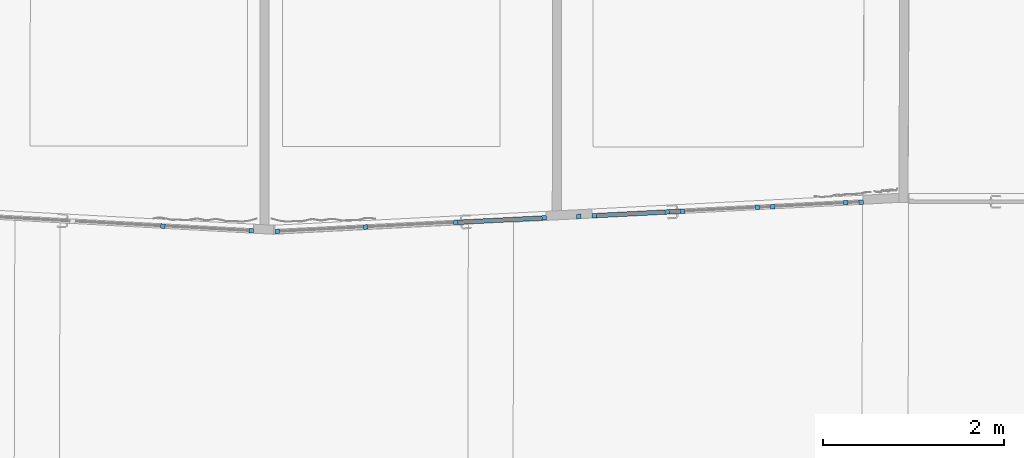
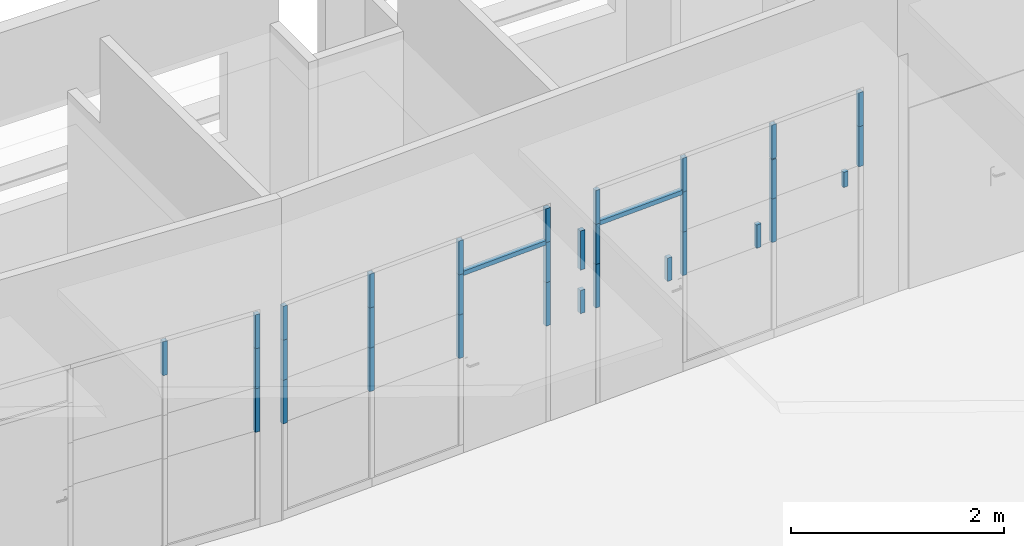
# One storey, part 5 of 43: 34 members, 3 elements without a shape of their own.
"""IFC2X3 building model written with IfcOpenShell, lengths in metres."""

from ifc_helpers import new_model, entity, si_unit, converted_unit, derived_unit, direction, frame, frame_2d, origin, origin_2d_with_axis, place, context, subcontext, project, spatial, rectangle, extrude, source, transform, mapped, material, type_object, type_shapes, element, aggregate, save


model = new_model("IFC2X3")

# Units and contexts
model_context = context("Model", 3, precision=1e-05, world=origin(), true_north=direction((6.123233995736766e-17, 1.0)))
body_context = subcontext(model_context, "Body", "Model", "MODEL_VIEW")
ifc_project = project(units=[si_unit("LENGTHUNIT", "METRE"), si_unit("AREAUNIT", "SQUARE_METRE"), converted_unit("PLANEANGLEUNIT", "DEGREE", entity("IfcPlaneAngleMeasure", 0.017453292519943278), si_unit("PLANEANGLEUNIT", "RADIAN"), dimensions=[0, 0, 0, 0, 0, 0, 0]), derived_unit("THERMALTRANSMITTANCEUNIT", [(si_unit("MASSUNIT", "GRAM", prefix="KILO"), 1), (si_unit("THERMODYNAMICTEMPERATUREUNIT", "KELVIN"), -1), (si_unit("TIMEUNIT", "SECOND"), -3)])], contexts=[model_context])

# Site, building, storey
site_placement = place(None, frame((1253.6752467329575, 2072.143113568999, 91.49999999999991), z_axis=(0.0, 0.0, 1.0), x_axis=(0.7237211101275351, 0.6900925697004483, 0.0)))
site = spatial("IfcSite", under=ifc_project, at=site_placement, Name="Surface", CompositionType="ELEMENT")
building_placement = place(site_placement, origin())
building = spatial("IfcBuilding", under=site, at=building_placement, CompositionType="ELEMENT")
storey_placement = place(building_placement, frame((0.0, 0.0, -4.629999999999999)))
storey = spatial("IfcBuildingStorey", under=building, at=storey_placement, Name="rez de rue -1.10m", CompositionType="ELEMENT", Elevation=-4.629999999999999)

# Curtain wall, member
curtain_wall_type = type_object("IfcCurtainWallType", Name="Mur-rideau:Menuiserie Int", PredefinedType="NOTDEFINED")
curtain_wall_1_placement = place(storey_placement, frame((0.0, 0.0, 4.629999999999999)))
curtain_wall_1 = element("IfcCurtainWall", 1, at=curtain_wall_1_placement, inside=storey, type_object=curtain_wall_type, Name="Mur-rideau:Menuiserie Int", ObjectType="Mur-rideau:Menuiserie Int")
ifc_material = material(Name="OMD_Bois Men Int")
member_type_1 = type_object("IfcMemberType", Name="Meneau rectangulaire:50x50 Int", PredefinedType="MULLION", material=ifc_material)
shared_shape_1 = source(origin(), body_context, "Body", "SweptSolid", [
    extrude(rectangle(XDim=0.05, YDim=0.05, at=origin_2d_with_axis()), frame((-0.025, 0.0, -0.3900000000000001), z_axis=(0.0, 0.0, 1.0), x_axis=(-1.0, 0.0, 0.0)), (0.0, 0.0, 1.0), 0.3900000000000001),
])
type_shapes(member_type_1, [shared_shape_1])
member_1_placement = place(curtain_wall_1_placement, frame((180.82798152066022, 7.671848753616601, -2.5699999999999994), z_axis=(0.0, 0.0, -1.0), x_axis=(0.6855443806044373, -0.7280308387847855, 0.0)))
member_1 = element("IfcMember", 2, at=member_1_placement, type_object=member_type_1, material=ifc_material, Name="Meneau rectangulaire:50x50 Int", ObjectType="Meneau rectangulaire:50x50 Int", context=body_context, shape_type="MappedRepresentation", body=[
    mapped(shared_shape_1, transform((0.0, 0.0, 0.0), scale=1.0)),
])

# Curtain wall, members
curtain_wall_2_placement = place(storey_placement, frame((0.0, 0.0, 4.629999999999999)))
curtain_wall_2 = element("IfcCurtainWall", 3, at=curtain_wall_2_placement, inside=storey, type_object=curtain_wall_type, Name="Mur-rideau:Menuiserie Int", ObjectType="Mur-rideau:Menuiserie Int")
member_type_2 = type_object("IfcMemberType", Name="Meneau rectangulaire:50x50 Int", PredefinedType="MULLION", material=ifc_material)
shared_shape_2 = source(origin(), body_context, "Body", "SweptSolid", [
    extrude(rectangle(XDim=0.05, YDim=0.05, at=frame_2d((0.0, -1.734723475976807e-18), x_axis=(1.0, 0.0))), frame((0.0, 0.0, -0.3900000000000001), z_axis=(0.0, 0.0, 1.0), x_axis=(-1.0, 0.0, 0.0)), (0.0, 0.0, 1.0), 0.3900000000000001),
])
type_shapes(member_type_2, [shared_shape_2])
member_2_placement = place(curtain_wall_2_placement, frame((182.51207345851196, 6.19625364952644, -2.5699999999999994), z_axis=(0.0, 0.0, -1.0), x_axis=(0.7578888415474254, -0.6523837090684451, 0.0)))
member_2 = element("IfcMember", 4, at=member_2_placement, type_object=member_type_2, material=ifc_material, Name="Meneau rectangulaire:50x50 Int", ObjectType="Meneau rectangulaire:50x50 Int", context=body_context, shape_type="MappedRepresentation", body=[
    mapped(shared_shape_2, transform((0.0, 0.0, 0.0), scale=1.0)),
])
member_type_3 = type_object("IfcMemberType", Name="Meneau rectangulaire:50x50 Int", PredefinedType="MULLION", material=ifc_material)
shared_shape_3 = source(origin(), body_context, "Body", "SweptSolid", [
    extrude(rectangle(XDim=0.05, YDim=0.05, at=frame_2d((0.0, -1.734723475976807e-18), x_axis=(1.0, 0.0))), frame((0.0, 0.0, -0.9250000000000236), z_axis=(0.0, 0.0, 1.0), x_axis=(-1.0, 0.0, 0.0)), (0.0, 0.0, 1.0), 0.9250000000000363),
])
type_shapes(member_type_3, [shared_shape_3])
member_3_placement = place(curtain_wall_2_placement, frame((183.23206785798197, 5.576489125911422, -2.5699999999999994), z_axis=(0.7578888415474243, -0.6523837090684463, 0.0), x_axis=(0.0, 0.0, 1.0)))
member_3 = element("IfcMember", 5, at=member_3_placement, type_object=member_type_3, material=ifc_material, Name="Meneau rectangulaire:50x50 Int", ObjectType="Meneau rectangulaire:50x50 Int", context=body_context, shape_type="MappedRepresentation", body=[
    mapped(shared_shape_3, transform((0.0, 0.0, 0.0), scale=1.0)),
])

# Member
member_type_4 = type_object("IfcMemberType", Name="Meneau rectangulaire:50x50 Int", PredefinedType="MULLION", material=ifc_material)
shared_shape_4 = source(origin(), body_context, "Body", "SweptSolid", [
    extrude(rectangle(XDim=0.05, YDim=0.049999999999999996, at=origin_2d_with_axis()), frame((-0.025, 0.0, -0.4599999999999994), z_axis=(0.0, 0.0, 1.0), x_axis=(-1.0, 0.0, 0.0)), (0.0, 0.0, 1.0), 0.4599999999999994),
])
type_shapes(member_type_4, [shared_shape_4])
member_4_placement = place(curtain_wall_1_placement, frame((180.82798152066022, 7.671848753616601, -3.029999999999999), z_axis=(0.0, 0.0, -1.0), x_axis=(0.6855443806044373, -0.7280308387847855, 0.0)))
member_4 = element("IfcMember", 6, at=member_4_placement, type_object=member_type_4, material=ifc_material, Name="Meneau rectangulaire:50x50 Int", ObjectType="Meneau rectangulaire:50x50 Int", context=body_context, shape_type="MappedRepresentation", body=[
    mapped(shared_shape_4, transform((0.0, 0.0, 0.0), scale=1.0)),
])

member_type_5 = type_object("IfcMemberType", Name="Meneau rectangulaire:50x50 Int", PredefinedType="MULLION", material=ifc_material)
shared_shape_5 = source(origin(), body_context, "Body", "SweptSolid", [
    extrude(rectangle(XDim=0.05, YDim=0.05, at=origin_2d_with_axis()), frame((-0.025, 0.0, -0.5), z_axis=(0.0, 0.0, 1.0), x_axis=(-1.0, 0.0, 0.0)), (0.0, 0.0, 1.0), 0.5),
])
type_shapes(member_type_5, [shared_shape_5])
member_5_placement = place(curtain_wall_2_placement, frame((180.99629577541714, 7.501021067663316, -3.0299999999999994), z_axis=(0.0, 0.0, 1.0), x_axis=(-0.7578888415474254, 0.6523837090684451, 0.0)))
member_5 = element("IfcMember", 7, at=member_5_placement, type_object=member_type_5, material=ifc_material, Name="Meneau rectangulaire:50x50 Int", ObjectType="Meneau rectangulaire:50x50 Int", context=body_context, shape_type="MappedRepresentation", body=[
    mapped(shared_shape_5, transform((0.0, 0.0, 0.0), scale=1.0)),
])

member_type_6 = type_object("IfcMemberType", Name="Meneau rectangulaire:50x50 Int", PredefinedType="MULLION", material=ifc_material)
shared_shape_6 = source(origin(), body_context, "Body", "SweptSolid", [
    extrude(rectangle(XDim=0.05, YDim=0.05, at=frame_2d((0.0, 1.734723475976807e-18), x_axis=(1.0, 0.0))), frame((0.0, 0.0, -0.4599999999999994), z_axis=(0.0, 0.0, 1.0), x_axis=(-1.0, 0.0, 0.0)), (0.0, 0.0, 1.0), 0.4599999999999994),
])
type_shapes(member_type_6, [shared_shape_6])
member_6_placement = place(curtain_wall_2_placement, frame((182.51207345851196, 6.19625364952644, -3.0299999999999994), z_axis=(0.0, 0.0, -1.0), x_axis=(0.7578888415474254, -0.6523837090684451, 0.0)))
member_6 = element("IfcMember", 8, at=member_6_placement, type_object=member_type_6, material=ifc_material, Name="Meneau rectangulaire:50x50 Int", ObjectType="Meneau rectangulaire:50x50 Int", context=body_context, shape_type="MappedRepresentation", body=[
    mapped(shared_shape_6, transform((0.0, 0.0, 0.0), scale=1.0)),
])

member_type_7 = type_object("IfcMemberType", Name="Meneau rectangulaire:50x50 Int", PredefinedType="MULLION", material=ifc_material)
shared_shape_7 = source(origin(), body_context, "Body", "SweptSolid", [
    extrude(rectangle(XDim=0.05, YDim=0.05000000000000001, at=origin_2d_with_axis()), frame((-0.025, 0.0, -0.5), z_axis=(0.0, 0.0, 1.0), x_axis=(-1.0, 0.0, 0.0)), (0.0, 0.0, 1.0), 0.5),
])
type_shapes(member_type_7, [shared_shape_7])
member_7_placement = place(curtain_wall_1_placement, frame((180.82798152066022, 7.671848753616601, -3.529999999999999), z_axis=(0.0, 0.0, -1.0), x_axis=(0.6855443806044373, -0.7280308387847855, 0.0)))
member_7 = element("IfcMember", 9, at=member_7_placement, type_object=member_type_7, material=ifc_material, Name="Meneau rectangulaire:50x50 Int", ObjectType="Meneau rectangulaire:50x50 Int", context=body_context, shape_type="MappedRepresentation", body=[
    mapped(shared_shape_7, transform((0.0, 0.0, 0.0), scale=1.0)),
])

member_8_placement = place(curtain_wall_2_placement, frame((183.2699623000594, 5.543869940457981, -3.5299999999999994), z_axis=(0.0, 0.0, -1.0), x_axis=(0.7578888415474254, -0.6523837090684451, 0.0)))
member_8 = element("IfcMember", 10, at=member_8_placement, type_object=member_type_7, material=ifc_material, Name="Meneau rectangulaire:50x50 Int", ObjectType="Meneau rectangulaire:50x50 Int", context=body_context, shape_type="MappedRepresentation", body=[
    mapped(shared_shape_7, transform((0.0, 0.0, 0.0), scale=1.0)),
])

member_type_8 = type_object("IfcMemberType", Name="Meneau rectangulaire:50x50 Int", PredefinedType="MULLION", material=ifc_material)
shared_shape_8 = source(origin(), body_context, "Body", "SweptSolid", [
    extrude(rectangle(XDim=0.05, YDim=0.05, at=frame_2d((0.0, -1.734723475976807e-18), x_axis=(1.0, 0.0))), frame((0.0, 0.0, -0.5), z_axis=(0.0, 0.0, 1.0), x_axis=(-1.0, 0.0, 0.0)), (0.0, 0.0, 1.0), 0.5),
])
type_shapes(member_type_8, [shared_shape_8])
member_9_placement = place(curtain_wall_2_placement, frame((181.75418461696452, 6.848637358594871, -3.5299999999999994), z_axis=(0.0, 0.0, -1.0), x_axis=(0.7578888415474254, -0.6523837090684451, 0.0)))
member_9 = element("IfcMember", 11, at=member_9_placement, type_object=member_type_8, material=ifc_material, Name="Meneau rectangulaire:50x50 Int", ObjectType="Meneau rectangulaire:50x50 Int", context=body_context, shape_type="MappedRepresentation", body=[
    mapped(shared_shape_8, transform((0.0, 0.0, 0.0), scale=1.0)),
])

member_10_placement = place(curtain_wall_2_placement, frame((182.51207345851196, 6.19625364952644, -3.5299999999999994), z_axis=(0.0, 0.0, -1.0), x_axis=(0.7578888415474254, -0.6523837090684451, 0.0)))
member_10 = element("IfcMember", 12, at=member_10_placement, type_object=member_type_8, material=ifc_material, Name="Meneau rectangulaire:50x50 Int", ObjectType="Meneau rectangulaire:50x50 Int", context=body_context, shape_type="MappedRepresentation", body=[
    mapped(shared_shape_8, transform((0.0, 0.0, 0.0), scale=1.0)),
])

member_type_9 = type_object("IfcMemberType", Name="Meneau rectangulaire:50x50 Int", PredefinedType="MULLION", material=ifc_material)
shared_shape_9 = source(origin(), body_context, "Body", "SweptSolid", [
    extrude(rectangle(XDim=0.05, YDim=0.05, at=origin_2d_with_axis()), frame((0.0, 0.0, -0.4599999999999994), z_axis=(0.0, 0.0, 1.0), x_axis=(-1.0, 0.0, 0.0)), (0.0, 0.0, 1.0), 0.4599999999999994),
])
type_shapes(member_type_9, [shared_shape_9])
member_11_placement = place(curtain_wall_2_placement, frame((181.75418461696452, 6.848637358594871, -3.0299999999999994), z_axis=(0.0, 0.0, -1.0), x_axis=(0.7578888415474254, -0.6523837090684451, 0.0)))
member_11 = element("IfcMember", 13, at=member_11_placement, type_object=member_type_9, material=ifc_material, Name="Meneau rectangulaire:50x50 Int", ObjectType="Meneau rectangulaire:50x50 Int", context=body_context, shape_type="MappedRepresentation", body=[
    mapped(shared_shape_9, transform((0.0, 0.0, 0.0), scale=1.0)),
])

member_type_10 = type_object("IfcMemberType", Name="Meneau rectangulaire:50x50 Int", PredefinedType="MULLION", material=ifc_material)
shared_shape_10 = source(origin(), body_context, "Body", "SweptSolid", [
    extrude(rectangle(XDim=0.05, YDim=0.05, at=frame_2d((0.0, 1.734723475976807e-18), x_axis=(1.0, 0.0))), frame((0.0, 0.0, -0.3900000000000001), z_axis=(0.0, 0.0, 1.0), x_axis=(-1.0, 0.0, 0.0)), (0.0, 0.0, 1.0), 0.3900000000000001),
])
type_shapes(member_type_10, [shared_shape_10])
member_12_placement = place(curtain_wall_1_placement, frame((180.1424371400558, 8.39987959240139, -2.5699999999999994), z_axis=(0.0, 0.0, -1.0), x_axis=(0.6855443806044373, -0.7280308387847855, 0.0)))
member_12 = element("IfcMember", 14, at=member_12_placement, type_object=member_type_10, material=ifc_material, Name="Meneau rectangulaire:50x50 Int", ObjectType="Meneau rectangulaire:50x50 Int", context=body_context, shape_type="MappedRepresentation", body=[
    mapped(shared_shape_10, transform((0.0, 0.0, 0.0), scale=1.0)),
])

aggregate(curtain_wall_1, [member_1, member_4, member_7, member_12])

member_13_placement = place(curtain_wall_2_placement, frame((181.75418461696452, 6.848637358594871, -2.5699999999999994), z_axis=(0.0, 0.0, -1.0), x_axis=(0.7578888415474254, -0.6523837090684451, 0.0)))
member_13 = element("IfcMember", 15, at=member_13_placement, type_object=member_type_10, material=ifc_material, Name="Meneau rectangulaire:50x50 Int", ObjectType="Meneau rectangulaire:50x50 Int", context=body_context, shape_type="MappedRepresentation", body=[
    mapped(shared_shape_10, transform((0.0, 0.0, 0.0), scale=1.0)),
])

member_type_11 = type_object("IfcMemberType", Name="Meneau rectangulaire:50x50 Int", PredefinedType="MULLION", material=ifc_material)
shared_shape_11 = source(origin(), body_context, "Body", "SweptSolid", [
    extrude(rectangle(XDim=0.05, YDim=0.05, at=origin_2d_with_axis()), frame((-0.025, 0.0, -0.3900000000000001), z_axis=(0.0, 0.0, 1.0), x_axis=(-1.0, 0.0, 0.0)), (0.0, 0.0, 1.0), 0.3900000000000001),
])
type_shapes(member_type_11, [shared_shape_11])
member_14_placement = place(curtain_wall_2_placement, frame((180.99629577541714, 7.501021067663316, -2.1799999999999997), z_axis=(0.0, 0.0, 1.0), x_axis=(-0.7578888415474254, 0.6523837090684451, 0.0)))
member_14 = element("IfcMember", 16, at=member_14_placement, type_object=member_type_11, material=ifc_material, Name="Meneau rectangulaire:50x50 Int", ObjectType="Meneau rectangulaire:50x50 Int", context=body_context, shape_type="MappedRepresentation", body=[
    mapped(shared_shape_11, transform((0.0, 0.0, 0.0), scale=1.0)),
])

member_type_12 = type_object("IfcMemberType", Name="Meneau rectangulaire:50x50 Int", PredefinedType="MULLION", material=ifc_material)
shared_shape_12 = source(origin(), body_context, "Body", "SweptSolid", [
    extrude(rectangle(XDim=0.05, YDim=0.05000000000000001, at=origin_2d_with_axis()), frame((-0.025, 0.0, -0.4599999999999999), z_axis=(0.0, 0.0, 1.0), x_axis=(-1.0, 0.0, 0.0)), (0.0, 0.0, 1.0), 0.4599999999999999),
])
type_shapes(member_type_12, [shared_shape_12])
member_15_placement = place(curtain_wall_2_placement, frame((183.2699623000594, 5.543869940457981, -3.0299999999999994), z_axis=(0.0, 0.0, -1.0), x_axis=(0.7578888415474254, -0.6523837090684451, 0.0)))
member_15 = element("IfcMember", 17, at=member_15_placement, type_object=member_type_12, material=ifc_material, Name="Meneau rectangulaire:50x50 Int", ObjectType="Meneau rectangulaire:50x50 Int", context=body_context, shape_type="MappedRepresentation", body=[
    mapped(shared_shape_12, transform((0.0, 0.0, 0.0), scale=1.0)),
])

member_type_13 = type_object("IfcMemberType", Name="Meneau rectangulaire:50x50 Int", PredefinedType="MULLION", material=ifc_material)
shared_shape_13 = source(origin(), body_context, "Body", "SweptSolid", [
    extrude(rectangle(XDim=0.05, YDim=0.05, at=origin_2d_with_axis()), frame((-0.025, 0.0, -0.3900000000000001), z_axis=(0.0, 0.0, 1.0), x_axis=(-1.0, 0.0, 0.0)), (0.0, 0.0, 1.0), 0.3900000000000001),
])
type_shapes(member_type_13, [shared_shape_13])
member_16_placement = place(curtain_wall_2_placement, frame((183.2699623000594, 5.543869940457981, -2.5699999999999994), z_axis=(0.0, 0.0, -1.0), x_axis=(0.7578888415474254, -0.6523837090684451, 0.0)))
member_16 = element("IfcMember", 18, at=member_16_placement, type_object=member_type_13, material=ifc_material, Name="Meneau rectangulaire:50x50 Int", ObjectType="Meneau rectangulaire:50x50 Int", context=body_context, shape_type="MappedRepresentation", body=[
    mapped(shared_shape_13, transform((0.0, 0.0, 0.0), scale=1.0)),
])

member_type_14 = type_object("IfcMemberType", Name="Meneau rectangulaire:50x50 Int", PredefinedType="MULLION", material=ifc_material)
shared_shape_14 = source(origin(), body_context, "Body", "SweptSolid", [
    extrude(rectangle(XDim=0.05, YDim=0.05000000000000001, at=origin_2d_with_axis()), frame((-0.025, 0.0, -0.4599999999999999), z_axis=(0.0, 0.0, 1.0), x_axis=(-1.0, 0.0, 0.0)), (0.0, 0.0, 1.0), 0.4599999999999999),
])
type_shapes(member_type_14, [shared_shape_14])
member_17_placement = place(curtain_wall_2_placement, frame((180.99629577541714, 7.501021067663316, -2.5699999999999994), z_axis=(0.0, 0.0, 1.0), x_axis=(-0.7578888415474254, 0.6523837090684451, 0.0)))
member_17 = element("IfcMember", 19, at=member_17_placement, type_object=member_type_14, material=ifc_material, Name="Meneau rectangulaire:50x50 Int", ObjectType="Meneau rectangulaire:50x50 Int", context=body_context, shape_type="MappedRepresentation", body=[
    mapped(shared_shape_14, transform((0.0, 0.0, 0.0), scale=1.0)),
])

aggregate(curtain_wall_2, [member_14, member_15, member_5, member_11, member_8, member_9, member_10, member_6, member_16, member_17, member_13, member_2, member_3])

# Curtain wall, members
curtain_wall_3_placement = place(storey_placement, frame((0.0, 0.0, 4.629999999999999)))
curtain_wall_3 = element("IfcCurtainWall", 20, at=curtain_wall_3_placement, inside=storey, type_object=curtain_wall_type, Name="Mur-rideau:Menuiserie Int", ObjectType="Mur-rideau:Menuiserie Int")
member_type_15 = type_object("IfcMemberType", Name="Meneau rectangulaire:50x50 Int", PredefinedType="MULLION", material=ifc_material)
shared_shape_15 = source(origin(), body_context, "Body", "SweptSolid", [
    extrude(rectangle(XDim=0.05, YDim=0.05, at=origin_2d_with_axis()), frame((-0.025, 0.0, -0.3900000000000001), z_axis=(0.0, 0.0, 1.0), x_axis=(-1.0, 0.0, 0.0)), (0.0, 0.0, 1.0), 0.3900000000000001),
])
type_shapes(member_type_15, [shared_shape_15])
member_18_placement = place(curtain_wall_3_placement, frame((183.6506313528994, 5.211462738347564, -2.1799999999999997), z_axis=(0.0, 0.0, 1.0), x_axis=(-0.7578888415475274, 0.6523837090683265, 0.0)))
member_18 = element("IfcMember", 21, at=member_18_placement, type_object=member_type_15, material=ifc_material, Name="Meneau rectangulaire:50x50 Int", ObjectType="Meneau rectangulaire:50x50 Int", context=body_context, shape_type="MappedRepresentation", body=[
    mapped(shared_shape_15, transform((0.0, 0.0, 0.0), scale=1.0)),
])
member_type_16 = type_object("IfcMemberType", Name="Meneau rectangulaire:50x50 Int", PredefinedType="MULLION", material=ifc_material)
shared_shape_16 = source(origin(), body_context, "Body", "SweptSolid", [
    extrude(rectangle(XDim=0.05, YDim=0.05, at=origin_2d_with_axis()), frame((-0.025, 0.0, -0.3900000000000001), z_axis=(0.0, 0.0, 1.0), x_axis=(-1.0, 0.0, 0.0)), (0.0, 0.0, 1.0), 0.3900000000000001),
])
type_shapes(member_type_16, [shared_shape_16])
member_19_placement = place(curtain_wall_3_placement, frame((185.92429787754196, 3.2543116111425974, -2.5699999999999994), z_axis=(0.0, 0.0, -1.0), x_axis=(0.7578888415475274, -0.6523837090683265, 0.0)))
member_19 = element("IfcMember", 22, at=member_19_placement, type_object=member_type_16, material=ifc_material, Name="Meneau rectangulaire:50x50 Int", ObjectType="Meneau rectangulaire:50x50 Int", context=body_context, shape_type="MappedRepresentation", body=[
    mapped(shared_shape_16, transform((0.0, 0.0, 0.0), scale=1.0)),
])
member_type_17 = type_object("IfcMemberType", Name="Meneau rectangulaire:50x50 Int", PredefinedType="MULLION", material=ifc_material)
shared_shape_17 = source(origin(), body_context, "Body", "SweptSolid", [
    extrude(rectangle(XDim=0.05, YDim=0.05, at=origin_2d_with_axis()), frame((-0.025, 0.0, -0.4599999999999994), z_axis=(0.0, 0.0, 1.0), x_axis=(-1.0, 0.0, 0.0)), (0.0, 0.0, 1.0), 0.4599999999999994),
])
type_shapes(member_type_17, [shared_shape_17])
member_20_placement = place(curtain_wall_3_placement, frame((183.6506313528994, 5.211462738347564, -2.5699999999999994), z_axis=(0.0, 0.0, 1.0), x_axis=(-0.7578888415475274, 0.6523837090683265, 0.0)))
member_20 = element("IfcMember", 23, at=member_20_placement, type_object=member_type_17, material=ifc_material, Name="Meneau rectangulaire:50x50 Int", ObjectType="Meneau rectangulaire:50x50 Int", context=body_context, shape_type="MappedRepresentation", body=[
    mapped(shared_shape_17, transform((0.0, 0.0, 0.0), scale=1.0)),
])
member_type_18 = type_object("IfcMemberType", Name="Meneau rectangulaire:50x50 Int", PredefinedType="MULLION", material=ifc_material)
shared_shape_18 = source(origin(), body_context, "Body", "SweptSolid", [
    extrude(rectangle(XDim=0.05, YDim=0.05, at=frame_2d((0.0, 1.734723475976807e-18), x_axis=(1.0, 0.0))), frame((0.0, 0.0, -0.9249999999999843), z_axis=(0.0, 0.0, 1.0), x_axis=(-1.0, 0.0, 0.0)), (0.0, 0.0, 1.0), 0.9249999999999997),
])
type_shapes(member_type_18, [shared_shape_18])
member_21_placement = place(curtain_wall_3_placement, frame((184.38957297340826, 4.575388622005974, -2.5699999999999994), z_axis=(0.757888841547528, -0.652383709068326, 0.0), x_axis=(0.0, 0.0, 1.0)))
member_21 = element("IfcMember", 24, at=member_21_placement, type_object=member_type_18, material=ifc_material, Name="Meneau rectangulaire:50x50 Int", ObjectType="Meneau rectangulaire:50x50 Int", context=body_context, shape_type="MappedRepresentation", body=[
    mapped(shared_shape_18, transform((0.0, 0.0, 0.0), scale=1.0)),
])
member_type_19 = type_object("IfcMemberType", Name="Meneau rectangulaire:50x50 Int", PredefinedType="MULLION", material=ifc_material)
shared_shape_19 = source(origin(), body_context, "Body", "SweptSolid", [
    extrude(rectangle(XDim=0.05, YDim=0.05, at=origin_2d_with_axis()), frame((-0.025, 0.0, -0.4599999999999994), z_axis=(0.0, 0.0, 1.0), x_axis=(-1.0, 0.0, 0.0)), (0.0, 0.0, 1.0), 0.4599999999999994),
])
type_shapes(member_type_19, [shared_shape_19])
member_22_placement = place(curtain_wall_3_placement, frame((185.92429787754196, 3.2543116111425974, -3.029999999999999), z_axis=(0.0, 0.0, -1.0), x_axis=(0.7578888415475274, -0.6523837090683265, 0.0)))
member_22 = element("IfcMember", 25, at=member_22_placement, type_object=member_type_19, material=ifc_material, Name="Meneau rectangulaire:50x50 Int", ObjectType="Meneau rectangulaire:50x50 Int", context=body_context, shape_type="MappedRepresentation", body=[
    mapped(shared_shape_19, transform((0.0, 0.0, 0.0), scale=1.0)),
])
member_type_20 = type_object("IfcMemberType", Name="Meneau rectangulaire:50x50 Int", PredefinedType="MULLION", material=ifc_material)
shared_shape_20 = source(origin(), body_context, "Body", "SweptSolid", [
    extrude(rectangle(XDim=0.05, YDim=0.05, at=origin_2d_with_axis()), frame((-0.025, 0.0, -0.5), z_axis=(0.0, 0.0, 1.0), x_axis=(-1.0, 0.0, 0.0)), (0.0, 0.0, 1.0), 0.5),
])
type_shapes(member_type_20, [shared_shape_20])
member_23_placement = place(curtain_wall_3_placement, frame((183.6506313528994, 5.211462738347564, -3.029999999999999), z_axis=(0.0, 0.0, 1.0), x_axis=(-0.7578888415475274, 0.6523837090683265, 0.0)))
member_23 = element("IfcMember", 26, at=member_23_placement, type_object=member_type_20, material=ifc_material, Name="Meneau rectangulaire:50x50 Int", ObjectType="Meneau rectangulaire:50x50 Int", context=body_context, shape_type="MappedRepresentation", body=[
    mapped(shared_shape_20, transform((0.0, 0.0, 0.0), scale=1.0)),
])
member_type_21 = type_object("IfcMemberType", Name="Meneau rectangulaire:50x50 Int", PredefinedType="MULLION", material=ifc_material)
shared_shape_21 = source(origin(), body_context, "Body", "SweptSolid", [
    extrude(rectangle(XDim=0.05, YDim=0.049999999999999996, at=origin_2d_with_axis()), frame((-0.025, 0.0, -0.4499999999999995), z_axis=(0.0, 0.0, 1.0), x_axis=(-1.0, 0.0, 0.0)), (0.0, 0.0, 1.0), 0.4499999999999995),
])
type_shapes(member_type_21, [shared_shape_21])
member_24_placement = place(curtain_wall_3_placement, frame((183.5214483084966, 5.322662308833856, -3.029999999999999), z_axis=(0.0, 0.0, -1.0), x_axis=(-0.7578888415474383, 0.65238370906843, 0.0)))
member_24 = element("IfcMember", 27, at=member_24_placement, type_object=member_type_21, material=ifc_material, Name="Meneau rectangulaire:50x50 Int", ObjectType="Meneau rectangulaire:50x50 Int", context=body_context, shape_type="MappedRepresentation", body=[
    mapped(shared_shape_21, transform((0.0, 0.0, 0.0), scale=1.0)),
])
member_type_22 = type_object("IfcMemberType", Name="Meneau rectangulaire:50x50 Int", PredefinedType="MULLION", material=ifc_material)
shared_shape_22 = source(origin(), body_context, "Body", "SweptSolid", [
    extrude(rectangle(XDim=0.05, YDim=0.05, at=origin_2d_with_axis()), frame((-0.025, 0.0, -0.173333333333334), z_axis=(0.0, 0.0, 1.0), x_axis=(-1.0, 0.0, 0.0)), (0.0, 0.0, 1.0), 0.173333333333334),
])
type_shapes(member_type_22, [shared_shape_22])
member_25_placement = place(curtain_wall_3_placement, frame((185.79511483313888, 3.3655111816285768, -3.029999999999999), z_axis=(0.0, 0.0, 1.0), x_axis=(0.7578888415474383, -0.65238370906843, 0.0)))
member_25 = element("IfcMember", 28, at=member_25_placement, type_object=member_type_22, material=ifc_material, Name="Meneau rectangulaire:50x50 Int", ObjectType="Meneau rectangulaire:50x50 Int", context=body_context, shape_type="MappedRepresentation", body=[
    mapped(shared_shape_22, transform((0.0, 0.0, 0.0), scale=1.0)),
])
member_type_23 = type_object("IfcMemberType", Name="Meneau rectangulaire:50x50 Int", PredefinedType="MULLION", material=ifc_material)
shared_shape_23 = source(origin(), body_context, "Body", "SweptSolid", [
    extrude(rectangle(XDim=0.05, YDim=0.05000000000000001, at=origin_2d_with_axis()), frame((-0.025, 0.0, -0.26666666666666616), z_axis=(0.0, 0.0, 1.0), x_axis=(-1.0, 0.0, 0.0)), (0.0, 0.0, 1.0), 0.26666666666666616),
])
type_shapes(member_type_23, [shared_shape_23])
member_26_placement = place(curtain_wall_3_placement, frame((183.5214483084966, 5.322662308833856, -3.529999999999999), z_axis=(0.0, 0.0, -1.0), x_axis=(-0.7578888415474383, 0.65238370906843, 0.0)))
member_26 = element("IfcMember", 29, at=member_26_placement, type_object=member_type_23, material=ifc_material, Name="Meneau rectangulaire:50x50 Int", ObjectType="Meneau rectangulaire:50x50 Int", context=body_context, shape_type="MappedRepresentation", body=[
    mapped(shared_shape_23, transform((0.0, 0.0, 0.0), scale=1.0)),
])
member_type_24 = type_object("IfcMemberType", Name="Meneau rectangulaire:50x50 Int", PredefinedType="MULLION", material=ifc_material)
shared_shape_24 = source(origin(), body_context, "Body", "SweptSolid", [
    extrude(rectangle(XDim=0.05, YDim=0.05, at=origin_2d_with_axis()), frame((0.0, 0.0, -0.26666666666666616), z_axis=(0.0, 0.0, 1.0), x_axis=(-1.0, 0.0, 0.0)), (0.0, 0.0, 1.0), 0.26666666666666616),
])
type_shapes(member_type_24, [shared_shape_24])
member_27_placement = place(curtain_wall_3_placement, frame((185.03722599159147, 4.017894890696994, -3.529999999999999), z_axis=(0.0, 0.0, -1.0), x_axis=(-0.7578888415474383, 0.65238370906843, 0.0)))
member_27 = element("IfcMember", 30, at=member_27_placement, type_object=member_type_24, material=ifc_material, Name="Meneau rectangulaire:50x50 Int", ObjectType="Meneau rectangulaire:50x50 Int", context=body_context, shape_type="MappedRepresentation", body=[
    mapped(shared_shape_24, transform((0.0, 0.0, 0.0), scale=1.0)),
])
member_28_placement = place(curtain_wall_3_placement, frame((184.279337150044, 4.670278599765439, -3.529999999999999), z_axis=(0.0, 0.0, -1.0), x_axis=(-0.7578888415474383, 0.65238370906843, 0.0)))
member_28 = element("IfcMember", 31, at=member_28_placement, type_object=member_type_24, material=ifc_material, Name="Meneau rectangulaire:50x50 Int", ObjectType="Meneau rectangulaire:50x50 Int", context=body_context, shape_type="MappedRepresentation", body=[
    mapped(shared_shape_24, transform((0.0, 0.0, 0.0), scale=1.0)),
])
member_type_25 = type_object("IfcMemberType", Name="Meneau rectangulaire:50x50 Int", PredefinedType="MULLION", material=ifc_material)
shared_shape_25 = source(origin(), body_context, "Body", "SweptSolid", [
    extrude(rectangle(XDim=0.05, YDim=0.05, at=origin_2d_with_axis()), frame((0.0, 0.0, -0.5), z_axis=(0.0, 0.0, 1.0), x_axis=(-1.0, 0.0, 0.0)), (0.0, 0.0, 1.0), 0.5),
])
type_shapes(member_type_25, [shared_shape_25])
member_29_placement = place(curtain_wall_3_placement, frame((185.16640903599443, 3.906695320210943, -3.529999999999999), z_axis=(0.0, 0.0, -1.0), x_axis=(0.7578888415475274, -0.6523837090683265, 0.0)))
member_29 = element("IfcMember", 32, at=member_29_placement, type_object=member_type_25, material=ifc_material, Name="Meneau rectangulaire:50x50 Int", ObjectType="Meneau rectangulaire:50x50 Int", context=body_context, shape_type="MappedRepresentation", body=[
    mapped(shared_shape_25, transform((0.0, 0.0, 0.0), scale=1.0)),
])
member_30_placement = place(curtain_wall_3_placement, frame((184.4085201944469, 4.5590790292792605, -3.529999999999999), z_axis=(0.0, 0.0, -1.0), x_axis=(0.7578888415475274, -0.6523837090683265, 0.0)))
member_30 = element("IfcMember", 33, at=member_30_placement, type_object=member_type_25, material=ifc_material, Name="Meneau rectangulaire:50x50 Int", ObjectType="Meneau rectangulaire:50x50 Int", context=body_context, shape_type="MappedRepresentation", body=[
    mapped(shared_shape_25, transform((0.0, 0.0, 0.0), scale=1.0)),
])
member_type_26 = type_object("IfcMemberType", Name="Meneau rectangulaire:50x50 Int", PredefinedType="MULLION", material=ifc_material)
shared_shape_26 = source(origin(), body_context, "Body", "SweptSolid", [
    extrude(rectangle(XDim=0.05, YDim=0.05, at=frame_2d((0.0, -1.734723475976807e-18), x_axis=(1.0, 0.0))), frame((0.0, 0.0, -0.4499999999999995), z_axis=(0.0, 0.0, 1.0), x_axis=(-1.0, 0.0, 0.0)), (0.0, 0.0, 1.0), 0.4499999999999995),
])
type_shapes(member_type_26, [shared_shape_26])
member_31_placement = place(curtain_wall_3_placement, frame((185.16640903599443, 3.906695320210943, -3.029999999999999), z_axis=(0.0, 0.0, -1.0), x_axis=(0.7578888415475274, -0.6523837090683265, 0.0)))
member_31 = element("IfcMember", 34, at=member_31_placement, type_object=member_type_26, material=ifc_material, Name="Meneau rectangulaire:50x50 Int", ObjectType="Meneau rectangulaire:50x50 Int", context=body_context, shape_type="MappedRepresentation", body=[
    mapped(shared_shape_26, transform((0.0, 0.0, 0.0), scale=1.0)),
])
member_type_27 = type_object("IfcMemberType", Name="Meneau rectangulaire:50x50 Int", PredefinedType="MULLION", material=ifc_material)
shared_shape_27 = source(origin(), body_context, "Body", "SweptSolid", [
    extrude(rectangle(XDim=0.05, YDim=0.05, at=origin_2d_with_axis()), frame((0.0, 0.0, -0.3900000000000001), z_axis=(0.0, 0.0, 1.0), x_axis=(-1.0, 0.0, 0.0)), (0.0, 0.0, 1.0), 0.3900000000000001),
])
type_shapes(member_type_27, [shared_shape_27])
member_32_placement = place(curtain_wall_3_placement, frame((185.16640903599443, 3.906695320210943, -2.5699999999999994), z_axis=(0.0, 0.0, -1.0), x_axis=(0.7578888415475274, -0.6523837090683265, 0.0)))
member_32 = element("IfcMember", 35, at=member_32_placement, type_object=member_type_27, material=ifc_material, Name="Meneau rectangulaire:50x50 Int", ObjectType="Meneau rectangulaire:50x50 Int", context=body_context, shape_type="MappedRepresentation", body=[
    mapped(shared_shape_27, transform((0.0, 0.0, 0.0), scale=1.0)),
])
member_type_28 = type_object("IfcMemberType", Name="Meneau rectangulaire:50x50 Int", PredefinedType="MULLION", material=ifc_material)
shared_shape_28 = source(origin(), body_context, "Body", "SweptSolid", [
    extrude(rectangle(XDim=0.05, YDim=0.05, at=origin_2d_with_axis()), frame((0.0, 0.0, -0.4599999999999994), z_axis=(0.0, 0.0, 1.0), x_axis=(-1.0, 0.0, 0.0)), (0.0, 0.0, 1.0), 0.4599999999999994),
])
type_shapes(member_type_28, [shared_shape_28])
member_33_placement = place(curtain_wall_3_placement, frame((184.4085201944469, 4.5590790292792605, -3.029999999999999), z_axis=(0.0, 0.0, -1.0), x_axis=(0.7578888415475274, -0.6523837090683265, 0.0)))
member_33 = element("IfcMember", 36, at=member_33_placement, type_object=member_type_28, material=ifc_material, Name="Meneau rectangulaire:50x50 Int", ObjectType="Meneau rectangulaire:50x50 Int", context=body_context, shape_type="MappedRepresentation", body=[
    mapped(shared_shape_28, transform((0.0, 0.0, 0.0), scale=1.0)),
])
member_type_29 = type_object("IfcMemberType", Name="Meneau rectangulaire:50x50 Int", PredefinedType="MULLION", material=ifc_material)
shared_shape_29 = source(origin(), body_context, "Body", "SweptSolid", [
    extrude(rectangle(XDim=0.05, YDim=0.05, at=origin_2d_with_axis()), frame((0.0, 0.0, -0.3900000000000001), z_axis=(0.0, 0.0, 1.0), x_axis=(-1.0, 0.0, 0.0)), (0.0, 0.0, 1.0), 0.3900000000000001),
])
type_shapes(member_type_29, [shared_shape_29])
member_34_placement = place(curtain_wall_3_placement, frame((184.4085201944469, 4.5590790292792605, -2.5699999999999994), z_axis=(0.0, 0.0, -1.0), x_axis=(0.7578888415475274, -0.6523837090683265, 0.0)))
member_34 = element("IfcMember", 37, at=member_34_placement, type_object=member_type_29, material=ifc_material, Name="Meneau rectangulaire:50x50 Int", ObjectType="Meneau rectangulaire:50x50 Int", context=body_context, shape_type="MappedRepresentation", body=[
    mapped(shared_shape_29, transform((0.0, 0.0, 0.0), scale=1.0)),
])
aggregate(curtain_wall_3, [member_18, member_19, member_20, member_21, member_22, member_23, member_24, member_25, member_26, member_27, member_28, member_29, member_31, member_32, member_30, member_33, member_34])

save(model, "model.ifc")
